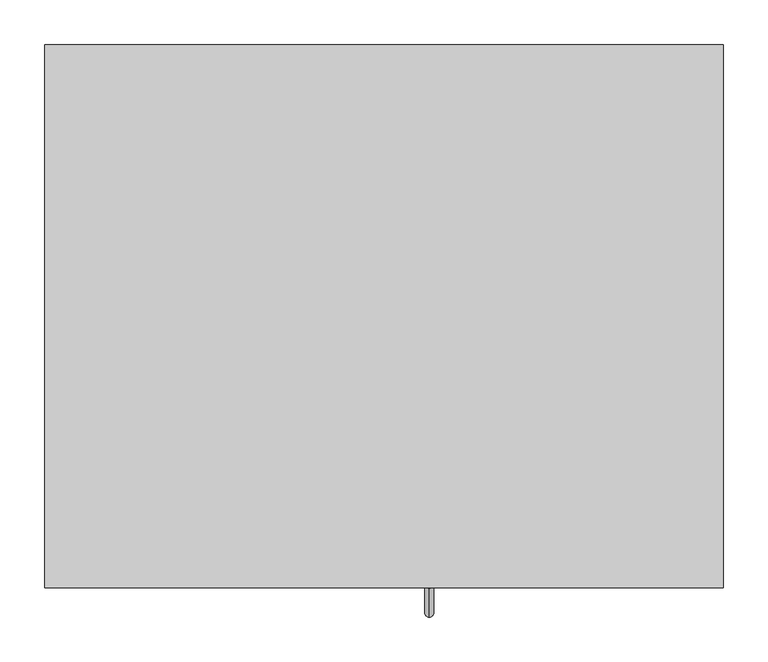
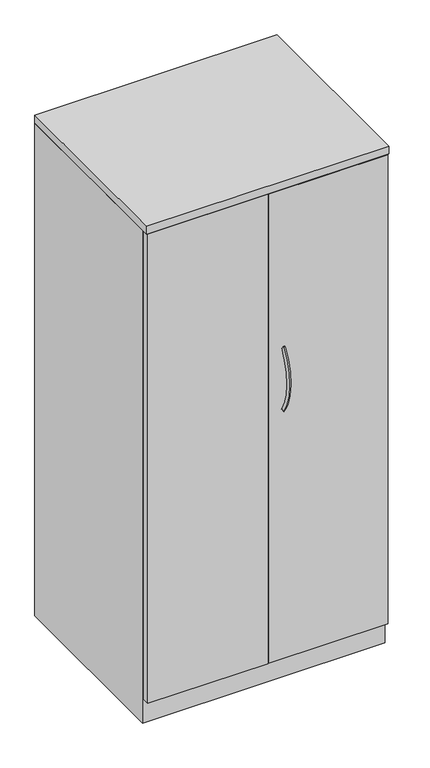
"""IFC4 building model written with IfcOpenShell, lengths in millimetres: furniture geometry, Steelcase - Universal Storage - Cabinet - Wardrobe - 66H-84H - Proud Steel : Partition/4 Adjustable Shelf/Coat Rod - 65 1/2H x 24D x 30W."""

import ifcopenshell
import ifcopenshell.guid

model = None  # the IFC model being written
_history = None  # IfcOwnerHistory: only IFC2X3 demands one
_inside = {}  # id of a spatial element -> (the spatial element, [elements in it])
_under = {}  # id of a project, library or spatial element -> (it, [spatial elements below it])
_declared = {}  # id of a project -> (the project, [libraries it declares])
_typed = {}  # id of a type object -> (the type object, [elements of that type])
_made_of = {}  # id of a material, layer set ... -> (it, [elements and type objects made of it])


def new_model(schema):
    """Start an empty IFC model of exactly this schema.

    Asked for "IFC4X3", IfcOpenShell would pick the latest addendum, in which some entities
    have other attributes; the version numbers below select the first issue.
    IFC2X3 requires an IfcOwnerHistory on every rooted entity: one is made here for all.
    """
    global model, _history
    if schema == "IFC4X3":
        model = ifcopenshell.file(schema_version=(4, 3, 0, 0))
    else:
        model = ifcopenshell.file(schema=schema)
    _inside.clear()
    _under.clear()
    _declared.clear()
    _typed.clear()
    _made_of.clear()
    _history = None
    if model.schema == "IFC2X3":
        org = make("IfcOrganization", Name="unknown")
        user = make(
            "IfcPersonAndOrganization",
            ThePerson=make("IfcPerson", FamilyName="unknown"),
            TheOrganization=org,
        )
        app = make(
            "IfcApplication",
            ApplicationDeveloper=org,
            Version="unknown",
            ApplicationFullName="unknown",
            ApplicationIdentifier="unknown",
        )
        _history = make(
            "IfcOwnerHistory",
            OwningUser=user,
            OwningApplication=app,
            ChangeAction="ADDED",
            CreationDate=0,
        )
    return model


def make(cls, **values):
    """One entity of the class cls with the attributes given. An attribute that is None is left unset."""
    return model.create_entity(
        cls, **{name: value for name, value in values.items() if value is not None}
    )


def rooted(cls, **values):
    """An entity with a GlobalId (a new one), such as an element, a storey or a relation."""
    return make(cls, GlobalId=ifcopenshell.guid.new(), OwnerHistory=_history, **values)


def si_unit(unit_type, name, prefix=None):
    """IfcSIUnit, for example si_unit("LENGTHUNIT", "METRE", prefix="MILLI")."""
    return make("IfcSIUnit", UnitType=unit_type, Prefix=prefix, Name=name)


def assignment(units):
    """IfcUnitAssignment: the units of a project."""
    return None if units is None else make("IfcUnitAssignment", Units=units)


def point(xyz):
    """IfcCartesianPoint."""
    return None if xyz is None else make("IfcCartesianPoint", Coordinates=xyz)


def direction(xyz):
    """IfcDirection."""
    return None if xyz is None else make("IfcDirection", DirectionRatios=xyz)


def frame(location, z_axis=None, x_axis=None):
    """IfcAxis2Placement3D, a coordinate frame: its origin and axes. An axis left out is left unset."""
    return make(
        "IfcAxis2Placement3D",
        Location=point(location),
        Axis=direction(z_axis),
        RefDirection=direction(x_axis),
    )


def origin():
    """The frame at (0, 0, 0) with its axes left unset."""
    return frame((0.0, 0.0, 0.0))


def place(relative_to, where):
    """IfcLocalPlacement: puts the frame where relative to a parent placement (None: the world)."""
    return make(
        "IfcLocalPlacement", PlacementRelTo=relative_to, RelativePlacement=where
    )


def context(
    kind, dimensions, precision=None, world=None, true_north=None, identifier=None
):
    """IfcGeometricRepresentationContext, for example the 3D "Model" context."""
    return make(
        "IfcGeometricRepresentationContext",
        ContextIdentifier=identifier,
        ContextType=kind,
        CoordinateSpaceDimension=dimensions,
        Precision=precision,
        WorldCoordinateSystem=world,
        TrueNorth=true_north,
    )


def project(units=None, contexts=None):
    """IfcProject with its units and contexts."""
    return rooted(
        "IfcProject",
        Name="project",
        RepresentationContexts=contexts,
        UnitsInContext=assignment(units),
    )


def spatial(cls, under=None, at=None, **own):
    """A site, building, storey or space (cls), placed at a placement, below another one or the project."""
    s = rooted(cls, ObjectPlacement=at, **own)
    if under is not None:
        _under.setdefault(under.id(), (under, []))[1].append(s)
    return s


def polyline(points):
    """IfcPolyline through the points."""
    return make("IfcPolyline", Points=[point(p) for p in points])


def circle_curve(where, radius):
    """IfcCircle in the frame where."""
    return make("IfcCircle", Position=where, Radius=radius)


def ellipse_curve(where, semi_axis1, semi_axis2):
    """IfcEllipse in the frame where."""
    return make(
        "IfcEllipse", Position=where, SemiAxis1=semi_axis1, SemiAxis2=semi_axis2
    )


def trimmed(basis, trim1, trim2, sense, master):
    """IfcTrimmedCurve: the piece of a basis curve between two trims."""
    return make(
        "IfcTrimmedCurve",
        BasisCurve=basis,
        Trim1=trim1,
        Trim2=trim2,
        SenseAgreement=sense,
        MasterRepresentation=master,
    )


def outline(outer, holes=None, kind="AREA"):
    """IfcArbitraryClosedProfileDef: a profile drawn as a closed curve; with holes, ...WithVoids."""
    if holes is None:
        return make("IfcArbitraryClosedProfileDef", ProfileType=kind, OuterCurve=outer)
    return make(
        "IfcArbitraryProfileDefWithVoids",
        ProfileType=kind,
        OuterCurve=outer,
        InnerCurves=holes,
    )


def extrude(swept, where, along, depth):
    """IfcExtrudedAreaSolid: the profile swept, set in the frame where, extruded along a direction by depth."""
    return make(
        "IfcExtrudedAreaSolid",
        SweptArea=swept,
        Position=where,
        ExtrudedDirection=direction(along),
        Depth=depth,
    )


def faces_of(points, faces, orient=None, outer=None):
    """IfcFace entities. A face is a list of loops; a loop is a list of indices into points, from 0.

    orient and outer hold one flag for each loop. By default every Orientation is true, the
    first loop of a face is its IfcFaceOuterBound and the others are IfcFaceBound.
    """
    made = []
    for i, loops in enumerate(faces):
        bounds = []
        for j, loop in enumerate(loops):
            is_outer = j == 0 if outer is None else outer[i][j]
            bounds.append(
                make(
                    "IfcFaceOuterBound" if is_outer else "IfcFaceBound",
                    Bound=make("IfcPolyLoop", Polygon=[points[k] for k in loop]),
                    Orientation=True if orient is None else orient[i][j],
                )
            )
        made.append(make("IfcFace", Bounds=bounds))
    return made


def faceted_brep(points, faces, orient=None, outer=None, voids=None):
    """IfcFacetedBrep: a solid bounded by flat faces; with voids (closed shells), ...WithVoids."""
    shared = [point(p) for p in points]
    hull = make("IfcClosedShell", CfsFaces=faces_of(shared, faces, orient, outer))
    if voids is None:
        return make("IfcFacetedBrep", Outer=hull)
    return make(
        "IfcFacetedBrepWithVoids",
        Outer=hull,
        Voids=[
            make(cls, CfsFaces=faces_of(shared, fs, o, b)) for cls, fs, o, b in voids
        ],
    )


def shape(context_of_items, identifier, shape_type, items):
    """IfcShapeRepresentation: the items that make up one representation, for example the "Body"."""
    return make(
        "IfcShapeRepresentation",
        ContextOfItems=context_of_items,
        RepresentationIdentifier=identifier,
        RepresentationType=shape_type,
        Items=items,
    )


def source(mapping_origin, context_of_items, identifier, shape_type, items):
    """IfcRepresentationMap: a shape defined once, which mapped items show again and again."""
    return make(
        "IfcRepresentationMap",
        MappingOrigin=mapping_origin,
        MappedRepresentation=shape(context_of_items, identifier, shape_type, items),
    )


def transform(
    local_origin,
    x_axis=None,
    y_axis=None,
    z_axis=None,
    scale=None,
    scale2=None,
    scale3=None,
    uniform=True,
):
    """IfcCartesianTransformationOperator3D, or its non-uniform kind. x_axis, y_axis, z_axis: its Axis1, 2, 3."""
    if uniform:
        return make(
            "IfcCartesianTransformationOperator3D",
            Axis1=direction(x_axis),
            Axis2=direction(y_axis),
            LocalOrigin=point(local_origin),
            Scale=scale,
            Axis3=direction(z_axis),
        )
    return make(
        "IfcCartesianTransformationOperator3DnonUniform",
        Axis1=direction(x_axis),
        Axis2=direction(y_axis),
        LocalOrigin=point(local_origin),
        Scale=scale,
        Axis3=direction(z_axis),
        Scale2=scale2,
        Scale3=scale3,
    )


def mapped(mapping_source, mapping_target):
    """IfcMappedItem: shows the shape of a source again, moved by a transform."""
    return make(
        "IfcMappedItem", MappingSource=mapping_source, MappingTarget=mapping_target
    )


def made_of(thing, what):
    """Note that an element or type object is made of a material, layer set ...; save() writes the relation."""
    if what is not None:
        _made_of.setdefault(what.id(), (what, []))[1].append(thing)
    return thing


def element(
    cls,
    number,
    at=None,
    inside=None,
    cuts=None,
    type_object=None,
    material=None,
    context=None,
    identifier="Body",
    shape_type=None,
    held_by="IfcProductDefinitionShape",
    body=None,
    shapes=None,
    **own,
):
    """One element of the class cls, such as IfcWall. Its Tag is "e" and its number.

    at: its placement. inside: the storey or other place that contains it. cuts: it is an
    opening in that element (IfcRelVoidsElement). A single representation is given by context,
    identifier, shape_type and body (its items); several are given by shapes. held_by: the class
    of the entity that holds the representations. save() writes the other relations.
    """
    e = rooted(cls, Tag="e%d" % number, ObjectPlacement=at, **own)
    if body is not None:
        shapes = [shape(context, identifier, shape_type, body)]
    if shapes is not None:
        e.Representation = make(held_by, Representations=shapes)
    if inside is not None:
        _inside.setdefault(inside.id(), (inside, []))[1].append(e)
    if cuts is not None:
        rooted(
            "IfcRelVoidsElement", RelatingBuildingElement=cuts, RelatedOpeningElement=e
        )
    if type_object is not None:
        _typed.setdefault(type_object.id(), (type_object, []))[1].append(e)
    return made_of(e, material)


def aggregate(whole, parts):
    """IfcRelAggregates: a whole, such as a stair, and the parts it consists of."""
    return rooted("IfcRelAggregates", RelatingObject=whole, RelatedObjects=parts)


def save(model, path):
    """Write the relations noted so far, then the file.

    IfcRelAggregates (storeys below a building ...), IfcRelContainedInSpatialStructure (elements
    in a storey), IfcRelDefinesByType, IfcRelAssociatesMaterial and IfcRelDeclares: one each for
    every whole, place, type object, material and project.
    """
    for whole, parts in _under.values():
        aggregate(whole, parts)
    for where, things in _inside.values():
        rooted(
            "IfcRelContainedInSpatialStructure",
            RelatedElements=things,
            RelatingStructure=where,
        )
    for kind, things in _typed.values():
        rooted("IfcRelDefinesByType", RelatedObjects=things, RelatingType=kind)
    for what, things in _made_of.values():
        rooted("IfcRelAssociatesMaterial", RelatedObjects=things, RelatingMaterial=what)
    for by, libraries in _declared.values():
        rooted("IfcRelDeclares", RelatingContext=by, RelatedDefinitions=libraries)
    model.write(path)


def plane_surface(at):
    """IfcPlane: the flat surface through the origin of the frame at, square to its z axis."""
    return make("IfcPlane", Position=at)


def revolved_surface(curve, axis_point, axis_direction):
    """IfcSurfaceOfRevolution: the curve turned about the line through axis_point along axis_direction."""
    return make(
        "IfcSurfaceOfRevolution",
        SweptCurve=make("IfcArbitraryOpenProfileDef", ProfileType="CURVE", Curve=curve),
        AxisPosition=make("IfcAxis1Placement", Location=point(axis_point), Axis=direction(axis_direction)),
    )


def advanced_brep(points, edges, surfaces, faces):
    """IfcAdvancedBrep: a solid bounded by faces that lie on surfaces and meet in shared edges.

    An edge is (start, end): straight between two places in points (the first is 0);
    or (start, end, curve); or (start, end, curve, False) where it runs against its curve.
    A face is (place in surfaces, loops), or (place, loops, False) where it looks against
    its surface's normal. A loop lists edges by number (the first is 1), with a minus sign
    where the edge is run from its end to its start. The first loop is the outer one.
    """
    corners = [point(p) for p in points]
    vertices = [make("IfcVertexPoint", VertexGeometry=c) for c in corners]
    made = []
    for start, end, *more in edges:
        made.append(
            make(
                "IfcEdgeCurve",
                EdgeStart=vertices[start],
                EdgeEnd=vertices[end],
                EdgeGeometry=more[0] if more else make("IfcPolyline", Points=[corners[start], corners[end]]),
                SameSense=more[1] if len(more) > 1 else True,
            )
        )
    hull = []
    for where, loops, *sense in faces:
        bounds = []
        for j, loop in enumerate(loops):
            ring = [make("IfcOrientedEdge", EdgeElement=made[abs(k) - 1], Orientation=k > 0) for k in loop]
            bounds.append(
                make(
                    "IfcFaceOuterBound" if j == 0 else "IfcFaceBound",
                    Bound=make("IfcEdgeLoop", EdgeList=ring),
                    Orientation=True,
                )
            )
        hull.append(make("IfcAdvancedFace", Bounds=bounds, FaceSurface=surfaces[where], SameSense=sense[0] if sense else True))
    return make("IfcAdvancedBrep", Outer=make("IfcClosedShell", CfsFaces=hull))


def furniture_d97bb153(model_context):
    return source(origin(), model_context, "Body", "SolidModel", [
        extrude(outline(polyline([(762.0, 130.048), (762.0, -479.552), (0.0, -479.552), (0.0, 130.048), (762.0, 130.048)])), frame((0.0, 0.0, 1638.2999516), z_axis=(0.0, 0.0, 1.0), x_axis=(1.0, 0.0, 0.0)), (0.0, 0.0, 1.0), 25.4),
        extrude(outline(polyline([(381.0, -479.552), (3.1725353, -479.552), (3.1725353, -457.3261219), (381.0, -457.3261219), (381.0, -479.552)])), frame((0.0, 0.0, 77.724), z_axis=(0.0, 0.0, 1.0), x_axis=(1.0, 0.0, 0.0)), (0.0, 0.0, 1.0), 1559.052),
        extrude(outline(polyline([(758.8225413, -479.552), (382.5239992, -479.552), (382.5239992, -457.3261219), (758.8225413, -457.3261219), (758.8225413, -479.552)])), frame((0.0, 0.0, 77.724), z_axis=(0.0, 0.0, 1.0), x_axis=(1.0, 0.0, 0.0)), (0.0, 0.0, 1.0), 1559.052),
        advanced_brep(
        [(431.7682496, -480.0678374, 1114.4756859), (431.7682496, -471.5857696, 1108.8828219), (431.7682496, -477.4964738, 894.418042), (431.7682496, -469.1474089, 900.2075769)],
        [
            (0, 1, circle_curve(frame((431.7682496, -475.8268035, 1111.6792539), z_axis=(0.0, 0.5504787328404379, 0.8348491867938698), x_axis=(0.0, 0.8348491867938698, -0.5504787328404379)), 5.08)),
            (1, 0, circle_curve(frame((431.7682496, -475.8268035, 1111.6792539), z_axis=(0.0, 0.5504787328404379, 0.8348491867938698), x_axis=(0.0, 0.8348491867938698, -0.5504787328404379)), 5.08)),
            (2, 3, circle_curve(frame((431.7682496, -473.3219413, 897.3128094), z_axis=(0.0, 0.5698361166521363, -0.8217583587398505), x_axis=(0.0, 0.8217583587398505, 0.5698361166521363)), 5.08)),
            (3, 2, circle_curve(frame((431.7682496, -473.3219413, 897.3128094), z_axis=(0.0, 0.5698361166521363, -0.8217583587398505), x_axis=(0.0, 0.8217583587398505, 0.5698361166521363)), 5.08)),
            (3, 1, circle_curve(frame((431.7682496, -316.0827352, 1006.3479992), z_axis=(-1.0, 0.0, 0.0), x_axis=(0.0, -0.83484918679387, 0.5504787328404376)), 186.2648211)),
            (0, 2, circle_curve(frame((431.7682496, -316.0827352, 1006.3479992), z_axis=(1.0, 0.0, 0.0), x_axis=(0.0, -0.83484918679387, 0.5504787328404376)), 196.4248211)),
        ],
        [
            plane_surface(frame((432.5619996, -475.1785718, 1111.2518261), z_axis=(0.0, 0.5504787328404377, 0.83484918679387), x_axis=(1.0, 0.0, 0.0))),
            plane_surface(frame((432.5619996, -472.6838742, 897.7552676), z_axis=(0.0, 0.5698361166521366, -0.8217583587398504), x_axis=(1.0, 0.0, 0.0))),
            revolved_surface(trimmed(ellipse_curve(frame((431.7682496, -475.8268035, 1111.6792539), z_axis=(0.0, 0.5504787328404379, 0.8348491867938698), x_axis=(0.0, 0.8348491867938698, -0.5504787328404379)), 5.08, 5.08), [point((431.7682496, -480.0678374, 1114.4756859))], [point((431.7682496, -471.5857696, 1108.8828219))], True, "CARTESIAN"), (432.5619996, -316.0827352, 1006.3479992), (1.0, 0.0, 0.0)),
            revolved_surface(trimmed(ellipse_curve(frame((431.7682496, -475.8268035, 1111.6792539), z_axis=(0.0, 0.5504787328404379, 0.8348491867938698), x_axis=(0.0, 0.8348491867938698, -0.5504787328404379)), 5.08, 5.08), [point((431.7682496, -471.5857696, 1108.8828219))], [point((431.7682496, -480.0678374, 1114.4756859))], True, "CARTESIAN"), (432.5619996, -316.0827352, 1006.3479992), (1.0, 0.0, 0.0)),
        ],
        [
            (0, [[1, 2]]),
            (1, [[3, 4]]),
            (2, [[5, -1, 6, -4]]),
            (3, [[-6, -2, -5, -3]]),
        ],
    ),
        faceted_brep([(25.4000008, -457.3261219, 76.2), (736.6000242, -457.3261219, 76.2), (736.6000242, 104.6479992, 76.2), (25.4000008, 104.6479992, 76.2), (762.0, 130.048, 0.0), (762.0, -457.3261219, 0.0), (0.0, -457.3261219, 0.0), (0.0, 130.048, 0.0), (0.0, 130.048, 1636.776), (762.0, 130.048, 1636.776), (0.0, -457.3261219, 1636.776), (762.0, -457.3261219, 1636.776), (736.6000242, -457.3261219, 1636.776), (25.4000008, -457.3261219, 1636.776), (736.6000242, 104.6479992, 1636.776), (25.4000008, 104.6479992, 1636.776)], [[[0, 1, 2, 3]], [[4, 5, 6, 7]], [[4, 7, 8, 9]], [[8, 7, 6, 10]], [[10, 6, 5, 11, 12, 1, 0, 13]], [[11, 5, 4, 9]], [[14, 12, 11, 9, 8, 10, 13, 15]], [[12, 14, 2, 1]], [[15, 13, 0, 3]], [[14, 15, 3, 2]]]),
    ])


if __name__ == "__main__":
    model = new_model("IFC4")
    model_context = context("Model", 3, world=origin())
    ifc_project = project(units=[si_unit("LENGTHUNIT", "METRE", prefix="MILLI")], contexts=[model_context])
    site = spatial("IfcSite", under=ifc_project)
    building = spatial("IfcBuilding", under=site)
    placement = place(None, origin())
    furniture_shape = furniture_d97bb153(model_context)
    element("IfcFurniture", 1, ObjectType="Steelcase - Universal Storage - Cabinet - Wardrobe - 66H-84H - Proud Steel : Partition/4 Adjustable Shelf/Coat Rod - 65 1/2H x 24D x 30W", at=placement, inside=building, context=model_context, shape_type="MappedRepresentation", body=[
        mapped(furniture_shape, transform((0.0, 0.0, 0.0), x_axis=(1.0, 0.0, 0.0), y_axis=(0.0, 1.0, 0.0), z_axis=(0.0, 0.0, 1.0))),
    ])
    save(model, "model.ifc")
